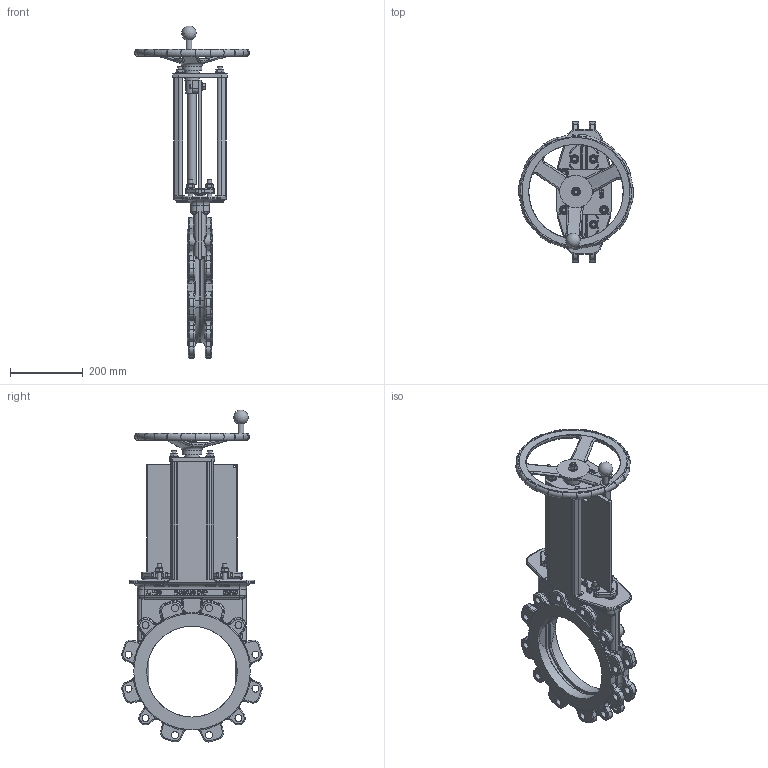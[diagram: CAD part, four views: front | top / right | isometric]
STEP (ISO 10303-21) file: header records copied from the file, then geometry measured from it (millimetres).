
FILE_DESCRIPTION(/* description */ (''),/* implementation_level */ '2;1');
FILE_NAME(/* name */ 'F:\3D Sammanställningar\WB\DN250\WB14E-DN250-ANSI150-HW.stp',/* time_stamp */ '2021-06-29T10:35:24+02:00',/* author */ ('MATZET'),/* organization */ (''),/* preprocessor_version */ 'ST-DEVELOPER v18',/* originating_system */ 'Autodesk Inventor 2020',/* authorisation */ '');
FILE_SCHEMA (('AUTOMOTIVE_DESIGN { 1 0 10303 214 3 1 1 }'));
Length unit declared in the file: millimetre
Products named in the file (1): WB14E-DN250-ANSI150-HW_Shrinkwrap_1
Bounding box: 316.79 x 387.66 x 914.69 mm (x, y, z)
Volume: 6913722.2 mm3; surface area: 1387264.8 mm2
Topology: 1 solids, 1 shells, 2645 faces, 6822 edges, 4254 vertices
Faces by surface type: plane 922, cylinder 681, bspline 565, torus 393, cone 59, sphere 25
Full cylindrical faces by diameter (mm): 7 x1, 8.376 x1, 9 x1, 10.106 x4, 12 x23, 13 x8, 15 x1, 15.5 x1, 16 x1, 16.63 x2, 19.177 x24, 20 x4, 24 x10, 40 x2, 55 x1, 250 x2, 298 x1
Entity records: 95733 total; most frequent: CARTESIAN_POINT 31756, ORIENTED_EDGE 13608, DIRECTION 12024, EDGE_CURVE 6804, AXIS2_PLACEMENT_3D 4519, VERTEX_POINT 4254, LINE 2986, VECTOR 2986
